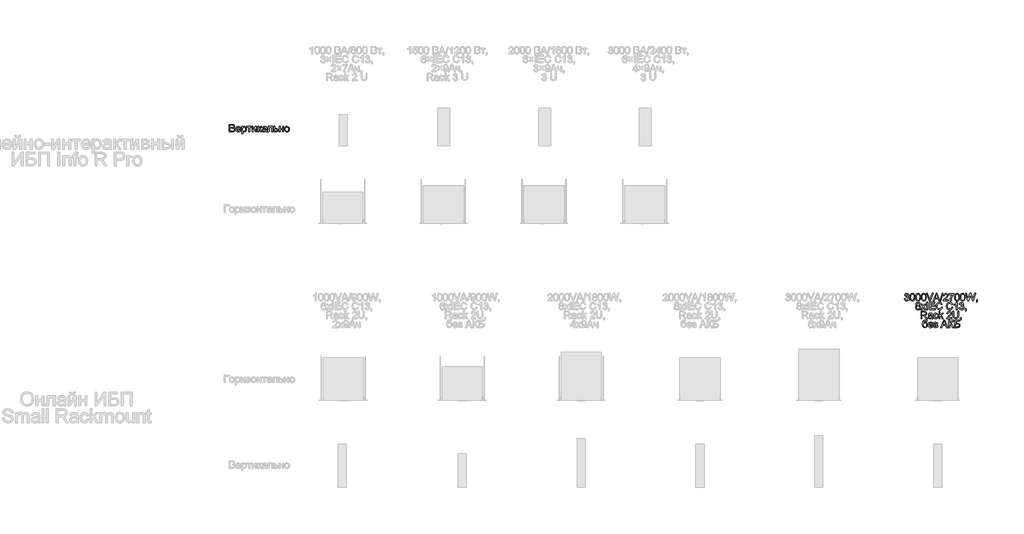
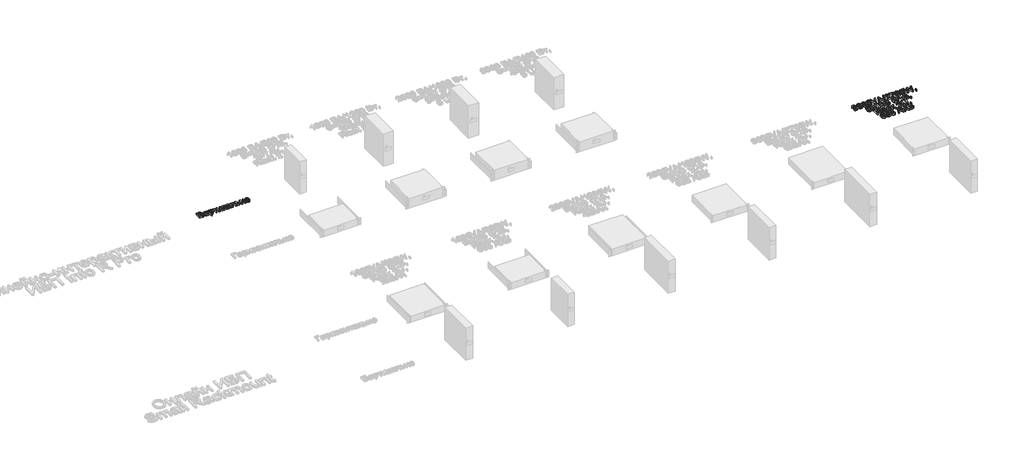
# One storey, part 70 of 74: 2 proxies.
"""IFC4 building model written with IfcOpenShell, lengths in millimetres."""

from ifc_helpers import new_model, si_unit, origin, origin_with_axes, place, context, project, spatial, polyline, outline, extrude, element, save

model = new_model("IFC4")

# Units and contexts
model_context = context("Model", 3, world=origin())
ifc_project = project(units=[si_unit("LENGTHUNIT", "METRE", prefix="MILLI")], contexts=[model_context])

# Site, building, storey
site = spatial("IfcSite", under=ifc_project)
building = spatial("IfcBuilding", under=site)
storey = spatial("IfcBuildingStorey", under=building, Name="Этаж 01", Elevation=0.0)

# Proxies
placement = place(None, origin())
element("IfcBuildingElementProxy", 1, Name="80 мм Arial", ObjectType="80 мм Arial", at=placement, inside=storey, context=model_context, shape_type="SweptSolid", body=[
    extrude(outline(polyline([(107.354428, 4109.9470378), (107.354428, 4190.3120859), (138.0210711, 4190.3120859), (153.0404667, 4187.947831), (161.9088753, 4180.6784828), (165.1168063, 4170.3974073), (162.419005, 4161.0090588), (154.26674, 4153.8966735), (164.1652182, 4146.401691), (167.6282141, 4133.9035133), (165.2639591, 4123.102498), (159.4072778, 4115.4113117), (150.6664016, 4111.3302741), (137.7856266, 4109.9470378), (107.354428, 4109.9470378)]), holes=[polyline([(117.400059, 4157.6637851), (135.7451078, 4157.6637851), (146.4578315, 4158.5270816), (152.9031241, 4162.2451423), (155.0711753, 4168.7885367), (153.0502769, 4175.3417413), (147.2622668, 4179.216765), (134.3520613, 4180.2664549), (117.400059, 4180.2664549), (117.400059, 4157.6637851)]), polyline([(117.400059, 4119.9926688), (138.0014507, 4119.9926688), (145.4571925, 4120.3850763), (151.7651425, 4122.5727479), (155.9442819, 4127.0363828), (157.5825831, 4133.8054115), (155.6597865, 4141.61432), (149.4303181, 4146.2741586), (137.0204321, 4147.6181541), (117.400059, 4147.6181541), (117.400059, 4119.9926688)])]), origin_with_axes(), (0.0, 0.0, 1.0), 20.0),
    extrude(outline(polyline([(221.5057586, 4127.5268921), (231.3551858, 4126.2711882), (222.1434207, 4113.3021216), (204.9854044, 4108.6913339), (193.1984653, 4110.6803493), (184.1289478, 4116.6473952), (178.3458429, 4126.2049695), (176.4181412, 4138.9655696), (178.3654633, 4152.1553654), (184.2074293, 4162.019508), (193.1543195, 4168.1704949), (204.4164136, 4170.2208239), (215.3277936, 4168.1754), (224.0465969, 4162.0391283), (229.7634831, 4152.1946062), (231.6691118, 4139.0244307), (231.6102507, 4136.3168192), (186.4637722, 4136.3168192), (192.2419721, 4123.2692711), (205.1816082, 4118.736965), (215.0310354, 4120.8363449), (221.5057586, 4127.5268921)]), holes=[polyline([(186.4637722, 4146.3624503), (221.6234808, 4146.3624503), (217.6013043, 4155.4663034), (204.3771729, 4160.1751929), (192.0065276, 4156.4178915), (186.4637722, 4146.3624503)])]), origin_with_axes(), (0.0, 0.0, 1.0), 20.0),
    extrude(outline(polyline([(241.7147428, 4087.344368), (241.7147428, 4168.96512), (251.7603738, 4168.96512), (251.7603738, 4159.1156928), (258.7059859, 4167.4445411), (268.0845242, 4170.2208239), (280.8181464, 4166.33599), (289.1371845, 4155.3878219), (291.9428979, 4139.9073475), (288.7742076, 4123.632248), (279.5722527, 4112.5467373), (266.8680611, 4108.6913339), (258.1271849, 4111.271413), (251.7603738, 4117.7951871), (251.7603738, 4087.344368), (241.7147428, 4087.344368)]), holes=[polyline([(251.7603738, 4138.98519), (256.1062865, 4123.681299), (266.652237, 4118.736965), (277.4140116, 4123.8578823), (281.8972669, 4139.7307642), (277.5219237, 4155.0738959), (267.0642648, 4160.1751929), (256.4005921, 4154.7501597), (251.7603738, 4138.98519)])]), origin_with_axes(), (0.0, 0.0, 1.0), 20.0),
    extrude(outline(polyline([(298.2214173, 4168.96512), (345.9381646, 4168.96512), (345.9381646, 4158.919489), (327.1026064, 4158.919489), (327.1026064, 4109.9470378), (317.0569754, 4109.9470378), (317.0569754, 4158.919489), (298.2214173, 4158.919489), (298.2214173, 4168.96512)])), origin_with_axes(), (0.0, 0.0, 1.0), 20.0),
    extrude(outline(polyline([(354.7280917, 4168.96512), (364.7737228, 4168.96512), (364.7737228, 4123.9559842), (389.4561521, 4168.96512), (402.4448391, 4168.96512), (402.4448391, 4109.9470378), (392.399208, 4109.9470378), (392.399208, 4154.6814884), (367.8737417, 4109.9470378), (354.7280917, 4109.9470378), (354.7280917, 4168.96512)])), origin_with_axes(), (0.0, 0.0, 1.0), 20.0),
    extrude(outline(polyline([(417.5132856, 4168.96512), (427.5589166, 4168.96512), (427.5589166, 4143.8510425), (434.2887046, 4145.6561168), (439.8020294, 4156.1726368), (444.3833865, 4165.2470593), (448.4251834, 4168.1999255), (455.7730131, 4168.96512), (457.6958096, 4168.96512), (457.6958096, 4158.8606279), (454.9881982, 4158.919489), (450.0831049, 4157.8599889), (446.6299192, 4151.2479231), (442.5783122, 4144.0962972), (436.8982142, 4140.5940606), (443.2355947, 4136.6847012), (449.455253, 4128.4490496), (460.2072174, 4109.9470378), (448.7881603, 4109.9470378), (438.2520199, 4128.0566422), (432.9545192, 4135.7183979), (427.5589166, 4137.5725231), (427.5589166, 4109.9470378), (417.5132856, 4109.9470378), (417.5132856, 4168.96512)])), origin_with_axes(), (0.0, 0.0, 1.0), 20.0),
    extrude(outline(polyline([(504.1568531, 4117.4812611), (494.4153379, 4110.6729916), (483.6535632, 4108.6913339), (469.0658158, 4113.4590846), (463.974329, 4125.6433363), (465.8971256, 4133.5895874), (470.9493717, 4139.3579771), (477.9832754, 4142.6541997), (486.6751007, 4144.1649685), (504.097992, 4147.6181541), (504.1568531, 4149.8548767), (501.3903805, 4157.2713777), (490.2852493, 4160.1751929), (480.1218961, 4158.2425862), (475.2756639, 4151.3852658), (465.2300329, 4152.6409696), (469.5759455, 4162.4511562), (478.3266319, 4168.1999255), (491.5801939, 4170.2208239), (503.7546354, 4168.43537), (510.6315762, 4163.9521147), (513.7119748, 4157.1340351), (514.2024841, 4148.3441079), (514.2024841, 4135.8459303), (514.7126138, 4118.3936084), (516.7138919, 4109.9470378), (506.6682608, 4109.9470378), (504.1568531, 4117.4812611)]), holes=[polyline([(504.1568531, 4137.5725231), (487.9504249, 4134.4921245), (479.3076506, 4132.8636336), (475.3933862, 4130.2148832), (474.01996, 4126.3496697), (477.0120669, 4120.9148264), (485.7921839, 4118.736965), (495.9555371, 4121.1404607), (502.5087417, 4126.9579013), (504.097992, 4134.727569), (504.1568531, 4137.5725231)])]), origin_with_axes(), (0.0, 0.0, 1.0), 20.0),
    extrude(outline(polyline([(533.0380423, 4168.96512), (578.2433818, 4168.96512), (578.2433818, 4110.0058989), (568.1977508, 4110.0058989), (568.1977508, 4158.919489), (543.0836733, 4158.919489), (543.0836733, 4130.7642537), (542.4067704, 4117.7755667), (538.6887097, 4112.2916724), (529.8987826, 4109.9470378), (521.7367074, 4110.4571675), (521.7367074, 4119.9926688), (526.2297728, 4119.9926688), (530.7718892, 4120.6107106), (532.5867737, 4122.5727479), (533.0380423, 4131.3332445), (533.0380423, 4168.96512)])), origin_with_axes(), (0.0, 0.0, 1.0), 20.0),
    extrude(outline(polyline([(593.3118283, 4168.96512), (603.3574594, 4168.96512), (603.3574594, 4147.6181541), (614.9334795, 4147.6181541), (632.3956115, 4142.5855284), (636.9867788, 4136.5988621), (638.5171679, 4128.7041145), (633.3079589, 4115.4505525), (626.5364776, 4111.3229165), (616.6404519, 4109.9470378), (593.3118283, 4109.9470378), (593.3118283, 4168.96512)]), holes=[polyline([(603.3574594, 4119.9926688), (612.7359977, 4119.9926688), (624.8515781, 4122.1018589), (628.4715369, 4128.6844941), (625.793356, 4134.8649116), (613.9328404, 4137.5725231), (603.3574594, 4137.5725231), (603.3574594, 4119.9926688)])]), origin_with_axes(), (0.0, 0.0, 1.0), 20.0),
    extrude(outline(polyline([(651.0742067, 4168.96512), (661.1198377, 4168.96512), (661.1198377, 4146.3624503), (687.4896191, 4146.3624503), (687.4896191, 4168.96512), (697.5352501, 4168.96512), (697.5352501, 4109.9470378), (687.4896191, 4109.9470378), (687.4896191, 4136.3168192), (661.1198377, 4136.3168192), (661.1198377, 4109.9470378), (651.0742067, 4109.9470378), (651.0742067, 4168.96512)])), origin_with_axes(), (0.0, 0.0, 1.0), 20.0),
    extrude(outline(polyline([(710.0922889, 4139.4560789), (712.2652452, 4153.6857545), (718.7841142, 4163.6872397), (726.8382773, 4168.5874279), (736.4816907, 4170.2208239), (747.0349989, 4168.2318086), (755.4644016, 4162.2647626), (760.9899892, 4152.790575), (762.8318517, 4140.2801346), (759.5748698, 4122.4059747), (750.0884194, 4112.2916724), (736.4816907, 4108.6913339), (725.8008501, 4110.6729916), (717.3812575, 4116.6179647), (711.914531, 4126.2908086), (710.0922889, 4139.4560789)]), holes=[polyline([(720.1379199, 4139.4756993), (724.7879483, 4123.9069333), (736.4816907, 4118.736965), (748.1361923, 4123.9363638), (752.7862207, 4139.7896253), (748.1067617, 4155.0052246), (736.4816907, 4160.1751929), (724.7879483, 4155.024845), (720.1379199, 4139.4756993)])]), origin_with_axes(), (0.0, 0.0, 1.0), 20.0),
])
element("IfcBuildingElementProxy", 2, Name="80 мм Arial", ObjectType="80 мм Arial", at=placement, inside=storey, context=model_context, shape_type="SweptSolid", body=[
    extrude(outline(polyline([(7487.6292761, 2283.7121074), (7497.6749071, 2284.9678113), (7503.2176625, 2274.3924302), (7513.5870297, 2271.1550687), (7525.7909018, 2275.6088934), (7530.3232079, 2286.635543), (7525.8301425, 2297.0245306), (7514.4110854, 2301.1349987), (7507.3673714, 2300.0362578), (7508.4857327, 2310.0818888), (7510.0946033, 2309.9641666), (7521.4940401, 2312.8483615), (7526.5560963, 2321.7167701), (7522.8870865, 2329.5747295), (7513.4300667, 2332.6845586), (7503.8553247, 2329.5452989), (7498.930611, 2320.1275199), (7488.88498, 2321.3832237), (7497.1059163, 2337.1383833), (7513.0769, 2342.7301896), (7525.1924804, 2339.9735272), (7533.6684816, 2332.439304), (7536.6017273, 2322.3053813), (7533.8156344, 2313.0445652), (7525.5750777, 2306.3932587), (7536.5232458, 2299.5261281), (7540.368839, 2286.4589597), (7538.4460424, 2276.6683935), (7532.6776527, 2268.4866979), (7523.9711122, 2262.9537527), (7513.233863, 2261.1094377), (7503.5217783, 2262.6839726), (7495.614768, 2267.4075774), (7490.1161584, 2274.6327798), (7487.6292761, 2283.7121074)])), origin_with_axes(), (0.0, 0.0, 1.0), 20.0),
    extrude(outline(polyline([(7549.1587661, 2301.9001933), (7552.1116322, 2325.0228029), (7560.881939, 2338.3548465), (7575.5285475, 2342.7301896), (7587.2615306, 2340.1403004), (7595.3647447, 2332.6747484), (7600.0736342, 2320.7848024), (7601.8983289, 2301.9001933), (7598.9748933, 2278.8756855), (7590.2340171, 2265.5142114), (7575.5285475, 2261.1094377), (7565.090509, 2263.022424), (7557.1638783, 2268.7613832), (7551.1600442, 2282.3533966), (7549.1587661, 2301.9001933)]), holes=[polyline([(7559.2043971, 2301.9198136), (7560.3816195, 2286.1180557), (7563.9132867, 2276.9725093), (7575.5285475, 2271.1550687), (7587.1438084, 2276.9921297), (7590.6754755, 2286.1425811), (7591.8526979, 2301.9198136), (7590.7147163, 2317.3659524), (7587.3007714, 2326.5826226), (7582.0523216, 2331.1590746), (7575.4108253, 2332.6845586), (7564.0702496, 2327.3085764), (7560.4208602, 2317.5180102), (7559.2043971, 2301.9198136)])]), origin_with_axes(), (0.0, 0.0, 1.0), 20.0),
    extrude(outline(polyline([(7610.6882561, 2301.9001933), (7613.6411222, 2325.0228029), (7622.411429, 2338.3548465), (7637.0580375, 2342.7301896), (7648.7910206, 2340.1403004), (7656.8942347, 2332.6747484), (7661.6031242, 2320.7848024), (7663.4278189, 2301.9001933), (7660.5043833, 2278.8756855), (7651.7635071, 2265.5142114), (7637.0580375, 2261.1094377), (7626.619999, 2263.022424), (7618.6933683, 2268.7613832), (7612.6895341, 2282.3533966), (7610.6882561, 2301.9001933)]), holes=[polyline([(7620.7338871, 2301.9198136), (7621.9111095, 2286.1180557), (7625.4427766, 2276.9725093), (7637.0580375, 2271.1550687), (7648.6732983, 2276.9921297), (7652.2049655, 2286.1425811), (7653.3821879, 2301.9198136), (7652.2442062, 2317.3659524), (7648.8302613, 2326.5826226), (7643.5818115, 2331.1590746), (7636.9403152, 2332.6845586), (7625.5997396, 2327.3085764), (7621.9503502, 2317.5180102), (7620.7338871, 2301.9198136)])]), origin_with_axes(), (0.0, 0.0, 1.0), 20.0),
    extrude(outline(polyline([(7672.217746, 2301.9001933), (7675.1706122, 2325.0228029), (7683.9409189, 2338.3548465), (7698.5875274, 2342.7301896), (7710.3205105, 2340.1403004), (7718.4237246, 2332.6747484), (7723.1326142, 2320.7848024), (7724.9573089, 2301.9001933), (7722.0338733, 2278.8756855), (7713.2929971, 2265.5142114), (7698.5875274, 2261.1094377), (7688.149489, 2263.022424), (7680.2228582, 2268.7613832), (7674.2190241, 2282.3533966), (7672.217746, 2301.9001933)]), holes=[polyline([(7682.263377, 2301.9198136), (7683.4405994, 2286.1180557), (7686.9722666, 2276.9725093), (7698.5875274, 2271.1550687), (7710.2027883, 2276.9921297), (7713.7344555, 2286.1425811), (7714.9116778, 2301.9198136), (7713.7736962, 2317.3659524), (7710.3597513, 2326.5826226), (7705.1113015, 2331.1590746), (7698.4698052, 2332.6845586), (7687.1292296, 2327.3085764), (7683.4798402, 2317.5180102), (7682.263377, 2301.9198136)])]), origin_with_axes(), (0.0, 0.0, 1.0), 20.0),
    extrude(outline(polyline([(7761.2549991, 2262.3651415), (7729.2737909, 2342.7301896), (7740.0257554, 2342.7301896), (7761.4315824, 2284.8304687), (7765.7676849, 2271.7829206), (7770.0449262, 2284.8304687), (7791.5096143, 2342.7301896), (7802.2615788, 2342.7301896), (7771.6341764, 2262.3651415), (7761.2549991, 2262.3651415)])), origin_with_axes(), (0.0, 0.0, 1.0), 20.0),
    extrude(outline(polyline([(7802.2419584, 2262.3651415), (7834.3212684, 2342.7301896), (7842.875751, 2342.7301896), (7874.955061, 2262.3651415), (7864.3404392, 2262.3651415), (7855.1384842, 2287.4792191), (7822.0389148, 2287.4792191), (7812.8565802, 2262.3651415), (7802.2419584, 2262.3651415)]), holes=[polyline([(7825.727545, 2297.5248501), (7851.4694745, 2297.5248501), (7844.2295568, 2317.2825658), (7838.5985097, 2332.6845586), (7833.5953146, 2319.0091586), (7825.727545, 2297.5248501)])]), origin_with_axes(), (0.0, 0.0, 1.0), 20.0),
    extrude(outline(polyline([(7876.897478, 2262.3651415), (7899.5001477, 2342.7301896), (7908.5647601, 2342.7301896), (7885.9620903, 2262.3651415), (7876.897478, 2262.3651415)])), origin_with_axes(), (0.0, 0.0, 1.0), 20.0),
    extrude(outline(polyline([(7964.7967493, 2272.4107725), (7964.7967493, 2262.3651415), (7912.0571865, 2262.3651415), (7913.136307, 2269.2911332), (7919.2382431, 2279.954806), (7931.8149022, 2291.5994974), (7949.159312, 2308.3356756), (7953.4954145, 2319.715492), (7949.4045667, 2328.9272572), (7938.7212735, 2332.6845586), (7927.5867118, 2329.0155489), (7923.3585214, 2318.871816), (7913.3128904, 2320.1275199), (7915.7482692, 2329.8445096), (7921.0138868, 2336.9421796), (7928.835058, 2341.2831871), (7938.9370976, 2342.7301896), (7949.1127136, 2341.1213191), (7956.9191696, 2336.2947073), (7961.8855765, 2329.0842202), (7963.5410455, 2320.3237236), (7961.7555915, 2310.7980325), (7955.8204287, 2300.9486052), (7941.428885, 2287.1849135), (7929.8724853, 2277.5218797), (7925.3401791, 2272.4107725), (7964.7967493, 2272.4107725)])), origin_with_axes(), (0.0, 0.0, 1.0), 20.0),
    extrude(outline(polyline([(7974.8423804, 2331.4288548), (7974.8423804, 2341.4744858), (8027.5819432, 2341.4744858), (8027.5819432, 2333.3516513), (8012.6214087, 2311.7398104), (8001.172921, 2284.2026168), (7997.4450501, 2262.3651415), (7987.3994191, 2262.3651415), (7991.392165, 2285.0266724), (8002.3501434, 2310.6410695), (8017.5363122, 2331.4288548), (7974.8423804, 2331.4288548)])), origin_with_axes(), (0.0, 0.0, 1.0), 20.0),
    extrude(outline(polyline([(8036.3718703, 2301.9001933), (8039.3247365, 2325.0228029), (8048.0950432, 2338.3548465), (8062.7416517, 2342.7301896), (8074.4746348, 2340.1403004), (8082.5778489, 2332.6747484), (8087.2867385, 2320.7848024), (8089.1114332, 2301.9001933), (8086.1879976, 2278.8756855), (8077.4471214, 2265.5142114), (8062.7416517, 2261.1094377), (8052.3036133, 2263.022424), (8044.3769825, 2268.7613832), (8038.3731484, 2282.3533966), (8036.3718703, 2301.9001933)]), holes=[polyline([(8046.4175013, 2301.9198136), (8047.5947237, 2286.1180557), (8051.1263909, 2276.9725093), (8062.7416517, 2271.1550687), (8074.3569126, 2276.9921297), (8077.8885798, 2286.1425811), (8079.0658021, 2301.9198136), (8077.9278205, 2317.3659524), (8074.5138756, 2326.5826226), (8069.2654258, 2331.1590746), (8062.6239295, 2332.6845586), (8051.2833539, 2327.3085764), (8047.6339645, 2317.5180102), (8046.4175013, 2301.9198136)])]), origin_with_axes(), (0.0, 0.0, 1.0), 20.0),
    extrude(outline(polyline([(8097.9013603, 2301.9001933), (8100.8542264, 2325.0228029), (8109.6245332, 2338.3548465), (8124.2711417, 2342.7301896), (8136.0041248, 2340.1403004), (8144.1073389, 2332.6747484), (8148.8162284, 2320.7848024), (8150.6409231, 2301.9001933), (8147.7174875, 2278.8756855), (8138.9766113, 2265.5142114), (8124.2711417, 2261.1094377), (8113.8331032, 2263.022424), (8105.9064725, 2268.7613832), (8099.9026383, 2282.3533966), (8097.9013603, 2301.9001933)]), holes=[polyline([(8107.9469913, 2301.9198136), (8109.1242137, 2286.1180557), (8112.6558808, 2276.9725093), (8124.2711417, 2271.1550687), (8135.8864026, 2276.9921297), (8139.4180697, 2286.1425811), (8140.5952921, 2301.9198136), (8139.4573105, 2317.3659524), (8136.0433656, 2326.5826226), (8130.7949158, 2331.1590746), (8124.1534195, 2332.6845586), (8112.8128438, 2327.3085764), (8109.1634544, 2317.5180102), (8107.9469913, 2301.9198136)])]), origin_with_axes(), (0.0, 0.0, 1.0), 20.0),
    extrude(outline(polyline([(8177.5796954, 2262.3651415), (8155.6637386, 2342.7301896), (8166.0232956, 2342.7301896), (8178.7372974, 2289.9121453), (8182.661372, 2273.6076153), (8186.8601318, 2288.0285895), (8202.7918748, 2342.7301896), (8217.7229787, 2342.7301896), (8229.2989988, 2303.0774157), (8237.9123426, 2273.6076153), (8241.7186949, 2289.4412564), (8254.5504189, 2342.7301896), (8264.9099759, 2342.7301896), (8242.9743988, 2262.3651415), (8232.2420547, 2262.3651415), (8212.9748484, 2324.3655204), (8210.2868573, 2333.018105), (8207.2653198, 2322.5996869), (8189.7050859, 2262.3651415), (8177.5796954, 2262.3651415)])), origin_with_axes(), (0.0, 0.0, 1.0), 20.0),
    extrude(outline(polyline([(8276.2113108, 2262.3651415), (8276.2113108, 2272.4107725), (8286.2569418, 2272.4107725), (8286.2569418, 2262.3651415), (8284.4518675, 2252.0938762), (8278.7227186, 2246.0409911), (8276.2113108, 2249.8081028), (8279.8999409, 2254.1442052), (8281.2145059, 2262.3651415), (8276.2113108, 2262.3651415)])), origin_with_axes(), (0.0, 0.0, 1.0), 20.0),
    extrude(outline(polyline([(7624.6972024, 2209.0488489), (7615.5442984, 2215.2881276), (7612.5718119, 2225.0002122), (7614.1904927, 2232.8532665), (7619.046535, 2239.3427049), (7626.5954735, 2243.6984278), (7636.2928429, 2245.1503354), (7646.0490734, 2243.6640921), (7653.6961138, 2239.2053623), (7658.6404479, 2232.612917), (7660.2885592, 2224.725527), (7657.3553134, 2215.258697), (7648.4574742, 2209.0488489), (7659.1407674, 2201.1712691), (7662.799967, 2188.172772), (7660.9850824, 2178.5685993), (7655.5404289, 2170.6321584), (7647.1330991, 2165.3052271), (7636.4301855, 2163.5295834), (7625.727272, 2165.3125848), (7617.3199422, 2170.661589), (7611.8752886, 2178.6740588), (7610.0604041, 2188.4474572), (7613.8667565, 2201.7500701), (7624.6972024, 2209.0488489)]), holes=[polyline([(7622.6174429, 2224.7059066), (7626.1785406, 2216.8185166), (7636.5479078, 2213.7577385), (7646.711261, 2216.7988963), (7650.2429282, 2224.254638), (7646.5935388, 2231.9752549), (7636.4301855, 2235.1047044), (7626.2374017, 2232.0439262), (7622.6174429, 2224.7059066)]), polyline([(7620.1060351, 2188.8006239), (7621.783577, 2181.2369701), (7627.7187399, 2175.5764924), (7636.508667, 2173.5752144), (7648.4770946, 2177.7837844), (7652.7543359, 2188.4866979), (7648.339752, 2199.3956254), (7636.1751207, 2203.7121074), (7624.3538459, 2199.4544865), (7620.1060351, 2188.8006239)])]), origin_with_axes(), (0.0, 0.0, 1.0), 20.0),
    extrude(outline(polyline([(7667.8227825, 2164.7852873), (7689.2874706, 2194.4512913), (7669.0784863, 2223.8033695), (7681.1646362, 2223.8033695), (7690.9159616, 2209.6767009), (7695.4678881, 2203.005774), (7699.4115831, 2208.4602377), (7710.5167143, 2223.8033695), (7722.6028641, 2223.8033695), (7701.3736204, 2194.4512913), (7721.8180492, 2164.7852873), (7709.7318994, 2164.7852873), (7697.4299254, 2182.6202064), (7695.1735825, 2185.8771883), (7679.9089323, 2164.7852873), (7667.8227825, 2164.7852873)])), origin_with_axes(), (0.0, 0.0, 1.0), 20.0),
    extrude(outline(polyline([(7733.1193841, 2164.7852873), (7733.1193841, 2245.1503354), (7743.1650151, 2245.1503354), (7743.1650151, 2164.7852873), (7733.1193841, 2164.7852873)])), origin_with_axes(), (0.0, 0.0, 1.0), 20.0),
    extrude(outline(polyline([(7763.2562771, 2164.7852873), (7763.2562771, 2245.1503354), (7821.0186554, 2245.1503354), (7821.0186554, 2235.1047044), (7773.3019081, 2235.1047044), (7773.3019081, 2211.2463307), (7818.5072477, 2211.2463307), (7818.5072477, 2201.2006997), (7773.3019081, 2201.2006997), (7773.3019081, 2174.8309183), (7822.2743593, 2174.8309183), (7822.2743593, 2164.7852873), (7763.2562771, 2164.7852873)])), origin_with_axes(), (0.0, 0.0, 1.0), 20.0),
    extrude(outline(polyline([(7893.8494803, 2193.3525505), (7903.8951113, 2190.7626612), (7899.2597982, 2179.0566561), (7891.9855449, 2170.504626), (7882.4304232, 2165.273344), (7870.9525049, 2163.5295834), (7850.0469974, 2168.8074637), (7837.7842642, 2184.0917344), (7833.5756942, 2205.5760429), (7838.3336347, 2227.4135181), (7851.8618819, 2241.5696173), (7871.168329, 2246.4060392), (7882.182716, 2244.8413145), (7891.2890216, 2240.1471402), (7898.2027506, 2232.612917), (7902.6394074, 2222.5280452), (7892.5937764, 2220.1343597), (7884.3532197, 2232.4853846), (7870.7759216, 2236.3604082), (7855.0600027, 2232.0635465), (7846.1817839, 2220.5267672), (7843.6213252, 2205.5956633), (7846.6526729, 2188.2904942), (7856.0900723, 2177.234414), (7869.9518659, 2173.5752144), (7885.3244282, 2178.5587892), (7893.8494803, 2193.3525505)])), origin_with_axes(), (0.0, 0.0, 1.0), 20.0),
    extrude(outline(polyline([(8005.6071253, 2193.3525505), (8015.6527564, 2190.7626612), (8011.0174432, 2179.0566561), (8003.7431899, 2170.504626), (7994.1880682, 2165.273344), (7982.71015, 2163.5295834), (7961.8046424, 2168.8074637), (7949.5419093, 2184.0917344), (7945.3333393, 2205.5760429), (7950.0912797, 2227.4135181), (7963.619527, 2241.5696173), (7982.9259741, 2246.4060392), (7993.940361, 2244.8413145), (8003.0466667, 2240.1471402), (8009.9603956, 2232.612917), (8014.3970525, 2222.5280452), (8004.3514215, 2220.1343597), (7996.1108648, 2232.4853846), (7982.5335666, 2236.3604082), (7966.8176478, 2232.0635465), (7957.939429, 2220.5267672), (7955.3789703, 2205.5956633), (7958.4103179, 2188.2904942), (7967.8477174, 2177.234414), (7981.7095109, 2173.5752144), (7997.0820732, 2178.5587892), (8005.6071253, 2193.3525505)])), origin_with_axes(), (0.0, 0.0, 1.0), 20.0),
    extrude(outline(polyline([(8063.3695037, 2164.7852873), (8053.3238727, 2164.7852873), (8053.3238727, 2227.4135181), (8043.8079917, 2220.6346792), (8033.2326106, 2215.5628128), (8033.2326106, 2225.0590733), (8047.9577006, 2234.457232), (8056.8947806, 2245.1503354), (8063.3695037, 2245.1503354), (8063.3695037, 2164.7852873)])), origin_with_axes(), (0.0, 0.0, 1.0), 20.0),
    extrude(outline(polyline([(8087.2278773, 2186.1322532), (8097.2735084, 2187.387957), (8102.8162637, 2176.8125759), (8113.1856309, 2173.5752144), (8125.389503, 2178.0290391), (8129.9218092, 2189.0556887), (8125.4287437, 2199.4446763), (8114.0096866, 2203.5551445), (8106.9659727, 2202.4564036), (8108.0843339, 2212.5020346), (8109.6932045, 2212.3843123), (8121.0926413, 2215.2685072), (8126.1546975, 2224.1369158), (8122.4856878, 2231.9948752), (8113.0286679, 2235.1047044), (8103.4539259, 2231.9654447), (8098.5292122, 2222.5476656), (8088.4835812, 2223.8033695), (8096.7045175, 2239.558529), (8112.6755012, 2245.1503354), (8124.7910816, 2242.393673), (8133.2670828, 2234.8594497), (8136.2003285, 2224.725527), (8133.4142356, 2215.4647109), (8125.1736789, 2208.8134044), (8136.121847, 2201.9462739), (8139.9674402, 2188.8791054), (8138.0446436, 2179.0885392), (8132.2762539, 2170.9068437), (8123.5697134, 2165.3738984), (8112.8324642, 2163.5295834), (8103.1203795, 2165.1041183), (8095.2133692, 2169.8277231), (8089.7147596, 2177.0529255), (8087.2278773, 2186.1322532)])), origin_with_axes(), (0.0, 0.0, 1.0), 20.0),
    extrude(outline(polyline([(8153.7801828, 2164.7852873), (8153.7801828, 2174.8309183), (8163.8258138, 2174.8309183), (8163.8258138, 2164.7852873), (8162.0207395, 2154.5140219), (8156.2915906, 2148.4611369), (8153.7801828, 2152.2282485), (8157.468813, 2156.5643509), (8158.7833779, 2164.7852873), (8153.7801828, 2164.7852873)])), origin_with_axes(), (0.0, 0.0, 1.0), 20.0),
    extrude(outline(polyline([(7669.0784863, 2067.205433), (7669.0784863, 2147.5704811), (7703.7084448, 2147.5704811), (7719.7873406, 2145.4024299), (7728.5772677, 2137.730864), (7731.8636802, 2125.5760429), (7726.4190267, 2111.0962075), (7709.5945567, 2103.6208454), (7715.3040853, 2099.3239837), (7723.4465401, 2088.9840471), (7736.8472549, 2067.205433), (7725.173133, 2067.205433), (7714.7154741, 2083.8631297), (7707.1616305, 2094.8897794), (7701.8543196, 2100.0989884), (7697.0767587, 2102.0119748), (7691.2495079, 2102.3651415), (7679.1241174, 2102.3651415), (7679.1241174, 2067.205433), (7669.0784863, 2067.205433)]), holes=[polyline([(7679.1241174, 2112.4107725), (7701.6090649, 2112.4107725), (7713.077173, 2113.8332496), (7719.5911368, 2118.3851761), (7721.8180492, 2125.2032558), (7717.5702384, 2134.052044), (7704.140093, 2137.5248501), (7679.1241174, 2137.5248501), (7679.1241174, 2112.4107725)])]), origin_with_axes(), (0.0, 0.0, 1.0), 20.0),
    extrude(outline(polyline([(7785.8589469, 2074.7396562), (7776.1174317, 2067.9313868), (7765.355657, 2065.9497291), (7750.7679096, 2070.7174798), (7745.6764228, 2082.9017314), (7747.5992194, 2090.8479825), (7752.6514655, 2096.6163722), (7759.6853692, 2099.9125949), (7768.3771945, 2101.4233636), (7785.8000858, 2104.8765493), (7785.8589469, 2107.1132718), (7783.0924743, 2114.5297728), (7771.9873431, 2117.4335881), (7761.8239899, 2115.5009813), (7756.9777577, 2108.6436609), (7746.9321267, 2109.8993648), (7751.2780393, 2119.7095513), (7760.0287257, 2125.4583206), (7773.2822877, 2127.4792191), (7785.4567292, 2125.6937651), (7792.33367, 2121.2105099), (7795.4140686, 2114.3924302), (7795.9045779, 2105.6025031), (7795.9045779, 2093.1043254), (7796.4147076, 2075.6520036), (7798.4159857, 2067.205433), (7788.3703546, 2067.205433), (7785.8589469, 2074.7396562)]), holes=[polyline([(7785.8589469, 2094.8309183), (7769.6525187, 2091.7505197), (7761.0097444, 2090.1220287), (7757.09548, 2087.4732784), (7755.7220538, 2083.6080649), (7758.7141607, 2078.1732215), (7767.4942777, 2075.9953601), (7777.6576309, 2078.3988558), (7784.2108356, 2084.2162964), (7785.8000858, 2091.9859642), (7785.8589469, 2094.8309183)])]), origin_with_axes(), (0.0, 0.0, 1.0), 20.0),
    extrude(outline(polyline([(7847.3884369, 2088.5523989), (7857.4340679, 2087.296695), (7854.6332596, 2078.3620676), (7849.3700945, 2071.6102067), (7833.4383516, 2065.9497291), (7822.7526059, 2067.9240291), (7814.3967795, 2073.8469293), (7809.0036295, 2083.4584595), (7807.2059128, 2096.49865), (7810.2765012, 2113.1857773), (7819.6354191, 2123.9083112), (7833.301009, 2127.4792191), (7848.5754694, 2122.5741258), (7856.178364, 2108.6436609), (7846.132733, 2107.387957), (7841.4728944, 2114.9123701), (7833.3794905, 2117.4335881), (7821.7347991, 2112.4696337), (7817.2515438, 2096.7733352), (7821.6366972, 2080.9298839), (7833.1048053, 2075.9953601), (7842.5716353, 2079.0757587), (7847.3884369, 2088.5523989)])), origin_with_axes(), (0.0, 0.0, 1.0), 20.0),
    extrude(outline(polyline([(7866.223995, 2067.205433), (7866.223995, 2147.5704811), (7876.269626, 2147.5704811), (7876.269626, 2104.38604), (7898.7938143, 2126.2235152), (7912.6850385, 2126.2235152), (7889.8861649, 2104.1113547), (7913.9407423, 2067.205433), (7902.2077592, 2067.205433), (7882.685488, 2097.1265019), (7876.269626, 2090.9068437), (7876.269626, 2067.205433), (7866.223995, 2067.205433)])), origin_with_axes(), (0.0, 0.0, 1.0), 20.0),
    extrude(outline(polyline([(8003.0957176, 2077.251064), (8003.0957176, 2067.205433), (7950.3561548, 2067.205433), (7951.4352753, 2074.1314247), (7957.5372113, 2084.7950974), (7970.1138704, 2096.4397889), (7987.4582802, 2113.1759671), (7991.7943827, 2124.5557835), (7987.7035349, 2133.7675486), (7977.0202418, 2137.5248501), (7965.88568, 2133.8558403), (7961.6574897, 2123.7121074), (7951.6118586, 2124.9678113), (7954.0472374, 2134.6848011), (7959.3128551, 2141.782471), (7967.1340263, 2146.1234786), (7977.2360659, 2147.5704811), (7987.4116819, 2145.9616105), (7995.2181378, 2141.1349987), (8000.1845447, 2133.9245116), (8001.8400137, 2125.164015), (8000.0545598, 2115.6383239), (7994.1193969, 2105.7888966), (7979.7278533, 2092.0252049), (7968.1714535, 2082.3621712), (7963.6391473, 2077.251064), (8003.0957176, 2077.251064)])), origin_with_axes(), (0.0, 0.0, 1.0), 20.0),
    extrude(outline(polyline([(8069.6480231, 2147.5704811), (8079.6936541, 2147.5704811), (8079.6936541, 2101.2075395), (8076.9664222, 2081.9893841), (8067.1366153, 2070.413364), (8048.4972609, 2065.9497291), (8030.1424019, 2069.834563), (8019.9594282, 2081.0868469), (8016.9084602, 2101.2075395), (8016.9084602, 2147.5704811), (8026.9540912, 2147.5704811), (8026.9540912, 2101.5607062), (8028.9357489, 2086.247005), (8035.7440184, 2078.6637309), (8047.555483, 2075.9953601), (8057.7727923, 2077.3148302), (8064.5663464, 2081.2732405), (8068.3776039, 2088.9840471), (8069.6480231, 2101.5607062), (8069.6480231, 2147.5704811)])), origin_with_axes(), (0.0, 0.0, 1.0), 20.0),
    extrude(outline(polyline([(8098.5292122, 2067.205433), (8098.5292122, 2077.251064), (8108.5748432, 2077.251064), (8108.5748432, 2067.205433), (8106.7697689, 2056.9341677), (8101.04062, 2050.8812826), (8098.5292122, 2054.6483942), (8102.2178424, 2058.9844967), (8103.5324074, 2067.205433), (8098.5292122, 2067.205433)])), origin_with_axes(), (0.0, 0.0, 1.0), 20.0),
    extrude(outline(polyline([(7728.7244205, 2051.2463307), (7737.5143476, 2051.2463307), (7734.9244584, 2043.4079917), (7729.803541, 2040.5728477), (7717.5015671, 2039.9449958), (7700.932162, 2037.6297918), (7694.5751612, 2030.2132908), (7692.4267303, 2017.0872612), (7701.1283658, 2026.701244), (7712.341409, 2029.8993648), (7722.7941627, 2027.8662036), (7731.275069, 2021.7667201), (7736.8963059, 2012.1993357), (7738.7700515, 1999.7624717), (7735.0519908, 1982.4769231), (7726.2326331, 1972.0486948), (7712.341409, 1968.3698748), (7696.4783373, 1973.1081949), (7687.7963223, 1985.2335855), (7684.7747848, 2010.9657048), (7686.6804135, 2030.2402688), (7692.3972997, 2041.9953248), (7702.0676911, 2047.9918013), (7715.8338354, 2049.9906268), (7727.017448, 2050.2162611), (7728.7244205, 2051.2463307)]), holes=[polyline([(7728.7244205, 2000.0763977), (7724.3686977, 2014.3109784), (7719.1202479, 2018.4680449), (7712.0863441, 2019.8537338), (7704.7532297, 2018.3895634), (7699.3134813, 2013.9970524), (7694.8204158, 1998.3498049), (7699.7843702, 1983.5462334), (7712.027483, 1978.4155058), (7718.7621761, 1979.8992966), (7724.0940124, 1984.3506687), (7728.7244205, 2000.0763977)])]), origin_with_axes(), (0.0, 0.0, 1.0), 20.0),
    extrude(outline(polyline([(7792.647596, 1987.205433), (7802.4970233, 1985.9497291), (7793.2852581, 1972.9806625), (7776.1272418, 1968.3698748), (7764.3403027, 1970.3588901), (7755.2707853, 1976.3259361), (7749.4876803, 1985.8835103), (7747.5599786, 1998.6441105), (7749.5073007, 2011.8339063), (7755.3492668, 2021.6980488), (7764.2961569, 2027.8490358), (7775.558251, 2029.8993648), (7786.469631, 2027.8539409), (7795.1884343, 2021.7176692), (7800.9053205, 2011.873147), (7802.8109492, 1998.7029716), (7802.7520881, 1995.9953601), (7757.6056097, 1995.9953601), (7763.3838095, 1982.947812), (7776.3234456, 1978.4155058), (7786.1728729, 1980.5148858), (7792.647596, 1987.205433)]), holes=[polyline([(7757.6056097, 2006.0409911), (7792.7653182, 2006.0409911), (7788.7431417, 2015.1448442), (7775.5190103, 2019.8537338), (7763.1483651, 2016.0964323), (7757.6056097, 2006.0409911)])]), origin_with_axes(), (0.0, 0.0, 1.0), 20.0),
    extrude(outline(polyline([(7826.6693229, 1995.9953601), (7826.6693229, 2006.0409911), (7834.5959536, 2006.4333986), (7838.5985097, 2008.5229683), (7840.4820655, 2012.8885013), (7837.9608476, 2017.9603678), (7831.4566939, 2019.8537338), (7824.7367161, 2017.970178), (7820.3908035, 2012.3195105), (7809.0894686, 2013.5752144), (7816.6433122, 2025.8183272), (7830.4364345, 2029.8993648), (7845.1909551, 2024.9256002), (7850.5276965, 2013.0454643), (7848.6294255, 2006.8061857), (7842.9346122, 2001.9795739), (7849.5761085, 1995.7206749), (7851.7834004, 1986.7149236), (7850.3829963, 1979.3204955), (7846.1817839, 1973.4613616), (7830.514916, 1968.3698748), (7815.0638722, 1973.0787644), (7807.8337647, 1987.205433), (7819.1350996, 1988.4611369), (7823.6674058, 1981.0446358), (7831.4763143, 1978.4155058), (7838.8143338, 1980.9367238), (7841.7377694, 1987.3820163), (7839.9228849, 1992.6598967), (7836.0576714, 1995.4852304), (7828.6313602, 1996.0542212), (7826.6693229, 1995.9953601)])), origin_with_axes(), (0.0, 0.0, 1.0), 20.0),
    extrude(outline(polyline([(7887.629822, 1969.6255787), (7919.709132, 2049.9906268), (7928.2636147, 2049.9906268), (7960.3429247, 1969.6255787), (7949.7283028, 1969.6255787), (7940.5263478, 1994.7396562), (7907.4267785, 1994.7396562), (7898.2444439, 1969.6255787), (7887.629822, 1969.6255787)]), holes=[polyline([(7911.1154086, 2004.7852873), (7936.8573381, 2004.7852873), (7929.6174204, 2024.5430029), (7923.9863733, 2039.9449958), (7918.9831782, 2026.2695958), (7911.1154086, 2004.7852873)])]), origin_with_axes(), (0.0, 0.0, 1.0), 20.0),
    extrude(outline(polyline([(7971.0752687, 2049.9906268), (7981.1208997, 2049.9906268), (7981.1208997, 2014.8309183), (7992.3535633, 2017.4894788), (8000.1919024, 2030.9392446), (8005.7346578, 2042.1719081), (8012.0131772, 2047.7342839), (8020.9894978, 2049.9906268), (8027.5819432, 2049.8729046), (8027.5819432, 2039.8272736), (8025.364841, 2039.8861347), (8023.1477389, 2039.9449958), (8015.2995896, 2037.5316899), (8009.3349962, 2027.1917533), (8002.222611, 2014.5954738), (7995.2868091, 2010.4359547), (8003.0417616, 2005.8938383), (8010.688802, 1996.4270083), (8027.5819432, 1969.6255787), (8015.9274416, 1969.6255787), (8001.64381, 1992.2674892), (7991.5883688, 2004.088764), (7981.1208997, 2007.296695), (7981.1208997, 1969.6255787), (7971.0752687, 1969.6255787), (7971.0752687, 2049.9906268)])), origin_with_axes(), (0.0, 0.0, 1.0), 20.0),
    extrude(outline(polyline([(8036.3718703, 2049.9906268), (8086.6000254, 2049.9906268), (8086.6000254, 2039.9449958), (8046.4175013, 2039.9449958), (8046.4175013, 2016.0866221), (8065.2334391, 2016.0866221), (8081.8126544, 2014.0461033), (8091.681702, 2006.3352967), (8095.3899525, 1993.150406), (8092.7510124, 1981.7019183), (8084.8734326, 1973.0002829), (8067.0385134, 1969.6255787), (8036.3718703, 1969.6255787), (8036.3718703, 2049.9906268)]), holes=[polyline([(8046.4175013, 1979.6712097), (8067.9410506, 1979.6712097), (8080.9885987, 1982.9870528), (8085.3443215, 1992.9345819), (8082.8525341, 2000.8023515), (8075.9167323, 2005.0011114), (8060.7796144, 2006.0409911), (8046.4175013, 2006.0409911), (8046.4175013, 1979.6712097)])]), origin_with_axes(), (0.0, 0.0, 1.0), 20.0),
])

save(model, "model.ifc")
